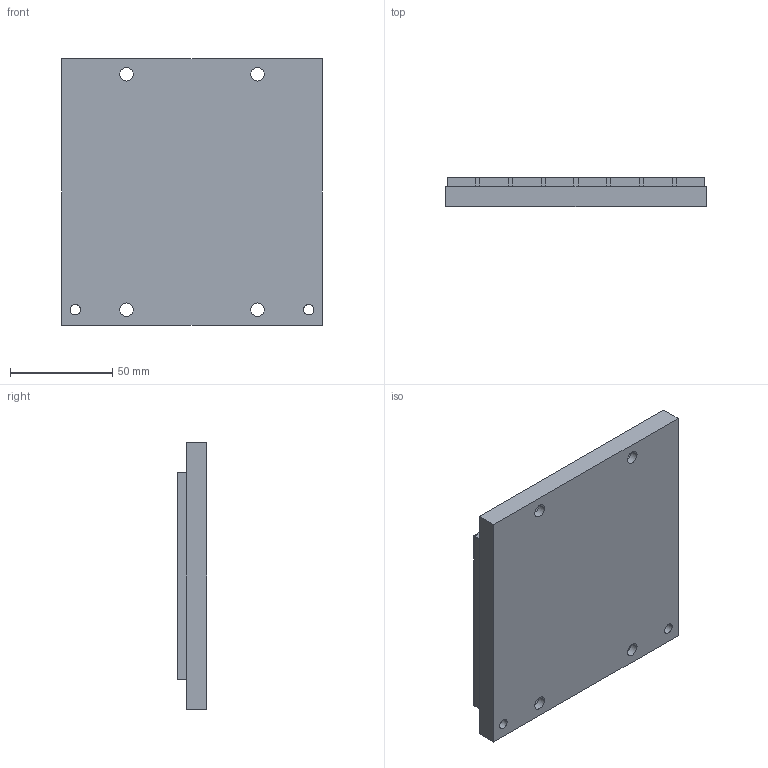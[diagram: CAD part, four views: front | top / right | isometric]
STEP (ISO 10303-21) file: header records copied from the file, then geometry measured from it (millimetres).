
FILE_DESCRIPTION((''),'2;1');
FILE_NAME('MC100-0128-WC','2007-01-14T',('saurabh.singhal'),(''),'PRO/ENGINEER BY PARAMETRIC TECHNOLOGY CORPORATION, 2005450','PRO/ENGINEER BY PARAMETRIC TECHNOLOGY CORPORATION, 2005450','');
FILE_SCHEMA(('CONFIG_CONTROL_DESIGN'));
Length unit declared in the file: millimetre
Products named in the file (1): MC100-0128-WC
Bounding box: 127.3 x 14.4 x 130 mm (x, y, z)
Volume: 211354.2 mm3; surface area: 74639.1 mm2
Topology: 1 solids, 1 shells, 78 faces, 192 edges, 128 vertices
Faces by surface type: plane 58, cylinder 20
Entity records: 2362 total; most frequent: CARTESIAN_POINT 398, DIRECTION 388, ORIENTED_EDGE 384, EDGE_CURVE 192, VECTOR 152, LINE 152, VERTEX_POINT 128, AXIS2_PLACEMENT_3D 118
